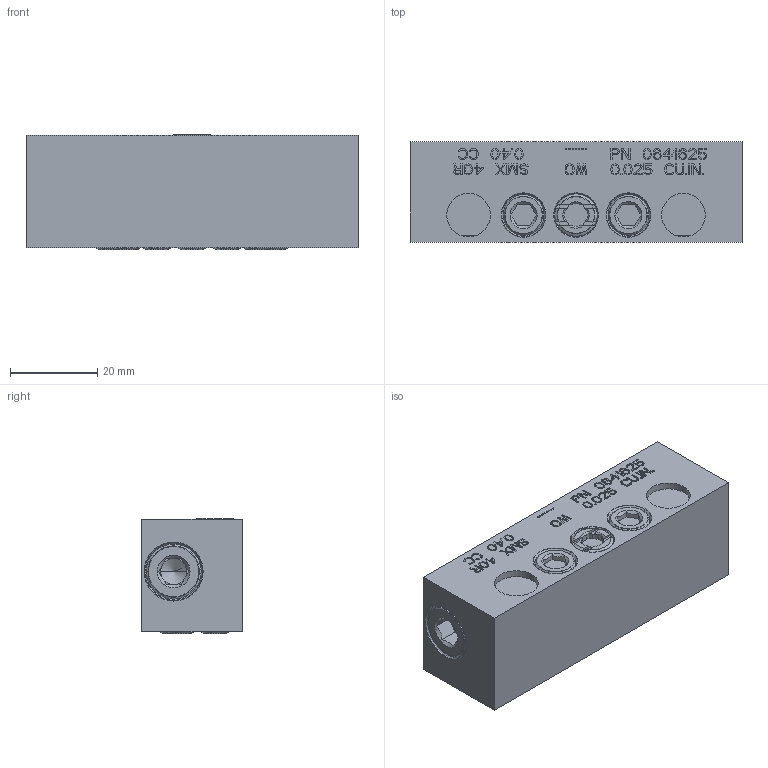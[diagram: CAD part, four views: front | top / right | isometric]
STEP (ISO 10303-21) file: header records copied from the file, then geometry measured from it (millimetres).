
FILE_DESCRIPTION((''),'2;1');
FILE_NAME('0641625_SMX_40R','2023-07-21T12:26:56',('pietro.masciave'),(''),'CREO PARAMETRIC BY PTC INC, 2022281','CREO PARAMETRIC BY PTC INC, 2022281','');
FILE_SCHEMA(('CONFIG_CONTROL_DESIGN'));
Length unit declared in the file: millimetre
Products named in the file (1): 0641625_SMX_40R
Bounding box: 76 x 23 x 26.33 mm (x, y, z)
Volume: 44008.1 mm3; surface area: 12649.1 mm2
Topology: 1 solids, 14 shells, 1317 faces, 3632 edges, 2413 vertices
Faces by surface type: plane 1141, cylinder 110, cone 44, torus 22
Entity records: 42436 total; most frequent: CARTESIAN_POINT 8600, ORIENTED_EDGE 7216, DIRECTION 6549, EDGE_CURVE 3628, VECTOR 3193, LINE 3193, VERTEX_POINT 2413, AXIS2_PLACEMENT_3D 1678
